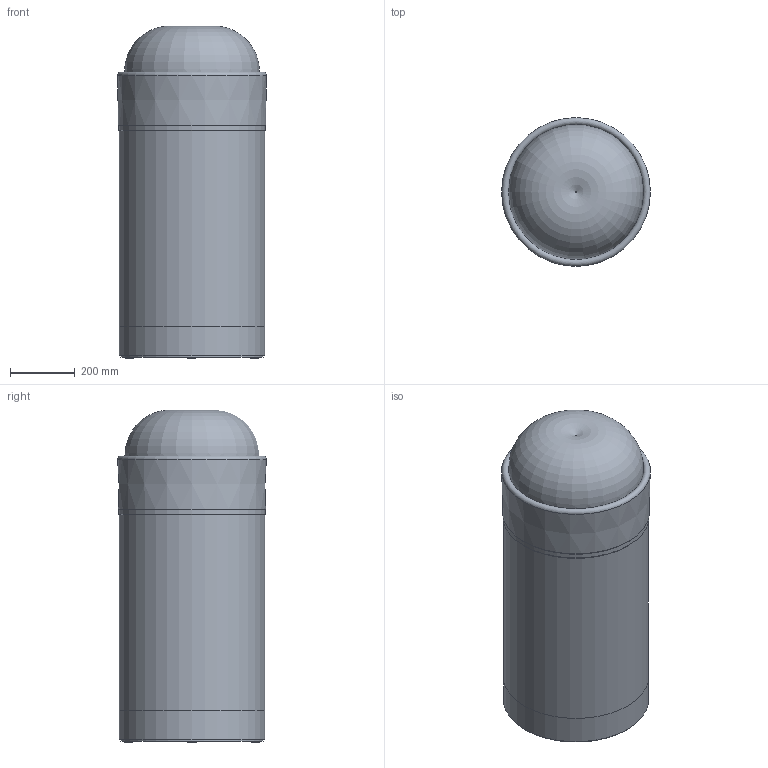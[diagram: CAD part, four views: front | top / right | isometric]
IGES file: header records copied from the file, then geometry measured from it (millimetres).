
Start section: Data from Parasolid IGES Translator 19.0.9, Copyright(c) 2006 Siemens PL M Software. All Rights Reserved.
Global section: file name: noorth-lavabi | washbasin-H 88 D 45 W 45_2017.igs; native system: By Siemens PLM Incorporated; preprocessor: XPlus GENERIC/IGES 19.0.9; author: Noname; organization: Noname; date: 20200511.115808; units: metre
Bounding box: 458 x 458 x 1021.74 mm (x, y, z)
Volume: 48229465.7 mm3; surface area: 3629887.1 mm2
Topology: 14 solids, 14 shells, 104 faces, 162 edges, 96 vertices
Faces by surface type: plane 38, cylinder 30, cone 21, torus 15
Full cylindrical faces by diameter (mm): 4.122 x2, 25 x4, 34.122 x2, 46.08 x1, 46.122 x1, 64 x1, 64.122 x1, 250 x1, 328.382 x1, 353 x1, 417 x1, 429 x2, 429.156 x1, 437 x5, 437.156 x1, 447 x4, 451 x1
